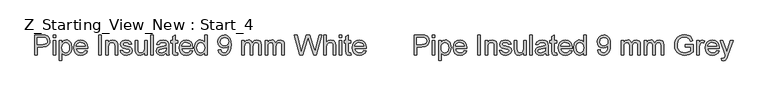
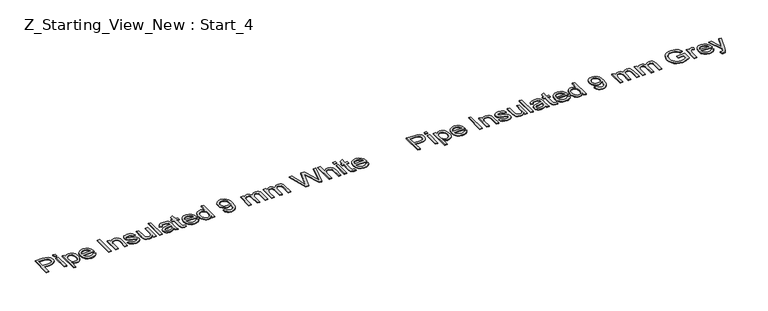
"""IFC4 building model written with IfcOpenShell, lengths in millimetres: pipe fitting geometry, Z_Starting_View_New : Start_4."""

from ifc_helpers import new_model, si_unit, origin, origin_with_axes, place, context, project, spatial, polyline, outline, extrude, source, transform, mapped, element, save


def z_starting_view_new_start_4_ba743cbc(model_context):
    return source(origin(), model_context, "Body", "SweptSolid", [
        extrude(outline(polyline([(27043.9601663, 7445.7857303), (27043.9601663, 7596.4701955), (27099.8046532, 7596.4701955), (27122.3190313, 7595.0354557), (27140.6211606, 7587.9905155), (27152.4853549, 7573.4223885), (27156.9735152, 7552.8761791), (27153.9430873, 7535.1166757), (27144.8518035, 7520.3186225), (27127.8510568, 7510.3306263), (27101.0922402, 7507.0012943), (27062.7957245, 7507.0012943), (27062.7957245, 7445.7857303), (27043.9601663, 7445.7857303)]), holes=[polyline([(27062.7957245, 7525.8368524), (27102.1958862, 7525.8368524), (27118.8977287, 7527.5658978), (27129.9341886, 7532.7530339), (27136.087015, 7541.0763641), (27138.1379571, 7552.2139915), (27133.3003089, 7567.8121881), (27120.5899859, 7576.3470504), (27101.7544278, 7577.6346373), (27062.7957245, 7577.6346373), (27062.7957245, 7525.8368524)])]), origin_with_axes(), (0.0, 0.0, 1.0), 5.0),
        extrude(outline(polyline([(27180.5179629, 7445.7857303), (27180.5179629, 7556.4446344), (27199.3535211, 7556.4446344), (27199.3535211, 7445.7857303), (27180.5179629, 7445.7857303)])), origin_with_axes(), (0.0, 0.0, 1.0), 5.0),
        extrude(outline(polyline([(27180.5179629, 7577.6346373), (27180.5179629, 7596.4701955), (27199.3535211, 7596.4701955), (27199.3535211, 7577.6346373), (27180.5179629, 7577.6346373)])), origin_with_axes(), (0.0, 0.0, 1.0), 5.0),
        extrude(outline(polyline([(27227.6068583, 7403.4057244), (27227.6068583, 7556.4446344), (27246.4424165, 7556.4446344), (27246.4424165, 7537.9769583), (27259.4654391, 7553.593549), (27277.0501985, 7558.7990792), (27289.7881126, 7556.9780633), (27300.92574, 7551.5150157), (27309.9940311, 7542.7410301), (27316.5239366, 7530.9872003), (27321.7846491, 7501.9613109), (27320.2993255, 7485.8526781), (27315.8433549, 7471.4454994), (27308.5592914, 7459.4709405), (27298.5896893, 7450.6601667), (27286.9784138, 7445.2385058), (27274.7693301, 7443.4312855), (27258.3801872, 7448.2689337), (27246.4424165, 7460.5010101), (27246.4424165, 7403.4057244), (27227.6068583, 7403.4057244)]), holes=[polyline([(27246.4424165, 7500.2322656), (27248.479563, 7483.346482), (27254.5910027, 7471.5374699), (27263.6087101, 7464.5845002), (27274.3646599, 7462.2668436), (27285.2953537, 7464.6672737), (27294.5429873, 7471.8685637), (27300.847565, 7484.1098371), (27302.9490909, 7501.6302171), (27300.8981488, 7518.4240302), (27294.7453224, 7530.3985892), (27285.7414106, 7537.5722881), (27275.1372121, 7539.963521), (27264.4916269, 7537.4205367), (27255.1428257, 7529.7915839), (27248.6175188, 7517.3157857), (27246.4424165, 7500.2322656)])]), origin_with_axes(), (0.0, 0.0, 1.0), 5.0),
        extrude(outline(polyline([(27420.4506002, 7478.747957), (27438.9182764, 7476.3935123), (27432.2642108, 7462.4783758), (27421.6462167, 7452.0765124), (27407.3034174, 7445.5925922), (27389.4749362, 7443.4312855), (27367.3744253, 7447.1606892), (27350.3690801, 7458.3489004), (27339.5257583, 7476.2693521), (27335.9113177, 7500.1954774), (27339.5625465, 7524.9263445), (27350.5162329, 7543.4216118), (27367.2916519, 7554.9547123), (27388.4080784, 7558.7990792), (27408.8669159, 7554.9639094), (27425.214672, 7543.4584), (27435.9338337, 7524.9999209), (27439.5068875, 7500.305842), (27439.3965229, 7495.2290704), (27354.7468759, 7495.2290704), (27358.00723, 7481.129993), (27365.5810006, 7470.7649177), (27376.5116944, 7464.3913622), (27389.8428182, 7462.2668436), (27408.3104944, 7466.203181), (27420.4506002, 7478.747957)]), holes=[polyline([(27354.7468759, 7514.0646286), (27420.6713294, 7514.0646286), (27418.1237466, 7524.0158365), (27413.1297485, 7531.1343531), (27402.1484709, 7537.7562291), (27388.334502, 7539.963521), (27375.6379747, 7538.202286), (27365.1395422, 7532.9185808), (27357.8416831, 7524.6826227), (27354.7468759, 7514.0646286)])]), origin_with_axes(), (0.0, 0.0, 1.0), 5.0),
        extrude(outline(polyline([(27521.9124545, 7445.7857303), (27521.9124545, 7596.4701955), (27540.7480126, 7596.4701955), (27540.7480126, 7445.7857303), (27521.9124545, 7445.7857303)])), origin_with_axes(), (0.0, 0.0, 1.0), 5.0),
        extrude(outline(polyline([(27576.0646842, 7445.7857303), (27576.0646842, 7556.4446344), (27594.9002423, 7556.4446344), (27594.9002423, 7540.9935906), (27609.3028224, 7554.347707), (27628.9661151, 7558.7990792), (27646.7532095, 7555.2122297), (27658.8933154, 7545.7944507), (27664.540304, 7531.9436935), (27665.5335854, 7513.7335348), (27665.5335854, 7445.7857303), (27646.6980272, 7445.7857303), (27646.6980272, 7511.195149), (27644.5275235, 7527.8602034), (27636.8571839, 7536.6709772), (27623.9261317, 7539.963521), (27612.8942704, 7538.114914), (27603.4902869, 7532.5690929), (27597.0477535, 7521.8545298), (27594.9002423, 7504.4996967), (27594.9002423, 7445.7857303), (27576.0646842, 7445.7857303)])), origin_with_axes(), (0.0, 0.0, 1.0), 5.0),
        extrude(outline(polyline([(27684.3691435, 7478.747957), (27703.2047017, 7481.1024018), (27706.1753488, 7473.0457861), (27711.923505, 7467.122886), (27731.8994973, 7462.2668436), (27751.1029375, 7466.7182158), (27757.3569314, 7477.1660645), (27755.7842358, 7481.9669245), (27751.0661493, 7485.6273503), (27731.6787681, 7490.9984275), (27703.3150663, 7500.2138715), (27690.9358371, 7510.9744198), (27686.7235883, 7526.1679462), (27690.1081027, 7540.2026443), (27699.3419407, 7550.9264045), (27711.3164997, 7556.4998167), (27727.5217016, 7558.7990792), (27750.4407499, 7555.1018651), (27765.0088769, 7545.0954749), (27771.4836, 7528.1912972), (27752.6480418, 7525.8368524), (27745.5663134, 7536.2295188), (27728.9932295, 7539.963521), (27710.9670118, 7536.3950657), (27705.5591465, 7528.0809326), (27707.8032266, 7522.5994909), (27714.8297727, 7518.4424243), (27731.0533687, 7514.4325106), (27758.6997007, 7505.5665545), (27771.5387823, 7495.523376), (27776.1924895, 7479.1526272), (27770.7294419, 7461.1264095), (27754.9656984, 7448.0482045), (27731.6419799, 7443.4312855), (27712.6500719, 7445.6569716), (27698.7901177, 7452.3340298), (27689.5378856, 7463.3888837), (27684.3691435, 7478.747957)])), origin_with_axes(), (0.0, 0.0, 1.0), 5.0),
        extrude(outline(polyline([(27868.0158355, 7445.7857303), (27868.0158355, 7464.8052294), (27853.2637675, 7448.7747715), (27834.0235392, 7443.4312855), (27816.3100211, 7447.1836818), (27804.0963389, 7456.6014609), (27798.4861384, 7470.4706121), (27797.3824925, 7487.9817951), (27797.3824925, 7556.4446344), (27816.2180506, 7556.4446344), (27816.2180506, 7496.8477512), (27817.3584848, 7477.644311), (27824.8080952, 7466.3687279), (27838.8427933, 7462.2668436), (27854.5697486, 7466.4606984), (27864.962415, 7477.8834343), (27868.0158355, 7498.8711022), (27868.0158355, 7556.4446344), (27886.8513937, 7556.4446344), (27886.8513937, 7445.7857303), (27868.0158355, 7445.7857303)])), origin_with_axes(), (0.0, 0.0, 1.0), 5.0),
        extrude(outline(polyline([(27912.7502861, 7445.7857303), (27912.7502861, 7596.4701955), (27931.5858443, 7596.4701955), (27931.5858443, 7445.7857303), (27912.7502861, 7445.7857303)])), origin_with_axes(), (0.0, 0.0, 1.0), 5.0),
        extrude(outline(polyline([(28030.4725246, 7459.9123989), (28012.2071835, 7447.1468936), (27992.0288561, 7443.4312855), (27976.2881052, 7445.6661686), (27964.6768298, 7452.370818), (27957.5169264, 7462.5519522), (27955.130292, 7475.2162899), (27958.7355355, 7490.1155107), (27968.2084969, 7500.9312413), (27981.3970664, 7507.1116589), (27997.6942388, 7509.9443502), (28030.36216, 7516.4190733), (28030.4725246, 7520.6129281), (28029.1757406, 7529.0190317), (28025.2853885, 7534.5188675), (28016.5849793, 7538.6023576), (28004.4632675, 7539.963521), (27985.4069802, 7536.3398834), (27976.3202949, 7523.4824076), (27957.4847368, 7525.8368524), (27965.6333229, 7544.2309522), (27982.0408599, 7555.0098946), (28006.8912887, 7558.7990792), (28029.7183665, 7555.451353), (28042.6126304, 7547.0452494), (28048.3883778, 7534.2613501), (28049.3080827, 7517.7802367), (28049.3080827, 7494.3461536), (28050.2645759, 7461.6230502), (28054.0169723, 7445.7857303), (28035.1814141, 7445.7857303), (28030.4725246, 7459.9123989)]), holes=[polyline([(28030.4725246, 7497.5835152), (28000.0854718, 7491.8077679), (27983.8802699, 7488.7543473), (27976.5410241, 7483.7879404), (27973.9658501, 7476.5406651), (27979.5760506, 7466.3503338), (27996.0387698, 7462.2668436), (28015.0950572, 7466.7733981), (28027.3823158, 7477.6810992), (28030.36216, 7492.2492263), (28030.4725246, 7497.5835152)])]), origin_with_axes(), (0.0, 0.0, 1.0), 5.0),
        extrude(outline(polyline([(28115.2325363, 7461.4942915), (28117.5869811, 7445.2339073), (28103.4971006, 7443.4312855), (28087.714963, 7446.5582825), (28079.8422883, 7454.7620509), (28077.56142, 7476.1359949), (28077.56142, 7537.6090763), (28063.4347514, 7537.6090763), (28063.4347514, 7556.4446344), (28077.56142, 7556.4446344), (28077.56142, 7583.3368083), (28096.3969781, 7594.4100563), (28096.3969781, 7556.4446344), (28115.2325363, 7556.4446344), (28115.2325363, 7537.6090763), (28096.3969781, 7537.6090763), (28096.3969781, 7476.6878179), (28097.3902595, 7466.9757332), (28100.609227, 7463.5360365), (28107.0287678, 7462.2668436), (28115.2325363, 7461.4942915)])), origin_with_axes(), (0.0, 0.0, 1.0), 5.0),
        extrude(outline(polyline([(28211.5440426, 7478.747957), (28230.0117188, 7476.3935123), (28223.3576532, 7462.4783758), (28212.7396591, 7452.0765124), (28198.3968598, 7445.5925922), (28180.5683786, 7443.4312855), (28158.4678678, 7447.1606892), (28141.4625225, 7458.3489004), (28130.6192007, 7476.2693521), (28127.0047601, 7500.1954774), (28130.6559889, 7524.9263445), (28141.6096753, 7543.4216118), (28158.3850943, 7554.9547123), (28179.5015208, 7558.7990792), (28199.9603583, 7554.9639094), (28216.3081145, 7543.4584), (28227.0272761, 7524.9999209), (28230.60033, 7500.305842), (28230.4899654, 7495.2290704), (28145.8403183, 7495.2290704), (28149.1006725, 7481.129993), (28156.674443, 7470.7649177), (28167.6051368, 7464.3913622), (28180.9362606, 7462.2668436), (28199.4039368, 7466.203181), (28211.5440426, 7478.747957)]), holes=[polyline([(28145.8403183, 7514.0646286), (28211.7647718, 7514.0646286), (28209.217189, 7524.0158365), (28204.2231909, 7531.1343531), (28193.2419134, 7537.7562291), (28179.4279444, 7539.963521), (28166.7314171, 7538.202286), (28156.2329846, 7532.9185808), (28148.9351256, 7524.6826227), (28145.8403183, 7514.0646286)])]), origin_with_axes(), (0.0, 0.0, 1.0), 5.0),
        extrude(outline(polyline([(28317.7147864, 7445.7857303), (28317.7147864, 7463.5544306), (28305.2527838, 7448.4620718), (28288.0267094, 7443.4312855), (28275.8498154, 7445.2523014), (28264.7029909, 7450.715349), (28255.2668177, 7459.4387508), (28248.2218775, 7471.0408292), (28243.8348847, 7485.0525347), (28242.3725538, 7501.0048177), (28247.762025, 7530.9872003), (28254.4942656, 7542.8789858), (28263.9120446, 7551.6253803), (28275.3025909, 7557.0056545), (28287.953133, 7558.7990792), (28305.3171632, 7553.6671254), (28317.7147864, 7540.331403), (28317.7147864, 7596.4701955), (28336.5503446, 7596.4701955), (28336.5503446, 7445.7857303), (28317.7147864, 7445.7857303)]), holes=[polyline([(28261.208112, 7501.0783941), (28263.3326305, 7484.0408592), (28269.7061861, 7471.923746), (28278.9676153, 7464.6810692), (28289.7557548, 7462.2668436), (28300.5392958, 7464.5707046), (28309.5662002, 7471.4822876), (28315.6776399, 7483.1303513), (28317.7147864, 7499.6436544), (28315.6408517, 7517.6974633), (28309.4190474, 7530.2146482), (28300.1622167, 7537.5263028), (28288.9832026, 7539.963521), (28278.0846985, 7537.6228718), (28269.1543631, 7530.6009243), (28263.1946747, 7518.5389933), (28261.208112, 7501.0783941)])]), origin_with_axes(), (0.0, 0.0, 1.0), 5.0),
        extrude(outline(polyline([(28421.3103563, 7483.4568466), (28440.1459144, 7485.8112913), (28443.3648819, 7475.1197209), (28448.6072003, 7467.8402559), (28455.744111, 7463.6601967), (28464.6468553, 7462.2668436), (28479.895564, 7465.8536931), (28490.2330481, 7475.4370191), (28496.3950715, 7491.8077679), (28499.1173983, 7513.6599584), (28499.0070337, 7517.3387783), (28483.9422659, 7503.0649569), (28463.2856919, 7497.5835152), (28446.1102013, 7500.9312413), (28431.8133872, 7510.9744198), (28422.1702804, 7526.489843), (28418.9559115, 7546.2543031), (28422.3266303, 7566.6717539), (28432.4387866, 7582.6746207), (28447.6277145, 7593.0213018), (28466.2287479, 7596.4701955), (28480.2772416, 7594.5020268), (28493.0657394, 7588.5975208), (28503.7619084, 7579.050983), (28511.5334156, 7566.1567191), (28516.2652978, 7548.3328364), (28517.8425918, 7523.9974424), (28516.2698963, 7498.195119), (28511.5518097, 7478.2513163), (28503.7297188, 7463.2647236), (28492.8450102, 7452.3340298), (28479.3667336, 7445.6569716), (28463.7639385, 7443.4312855), (28447.6599042, 7446.0570432), (28434.8116255, 7453.9343165), (28425.8261078, 7466.5664645), (28421.3103563, 7483.4568466)]), holes=[polyline([(28499.0070337, 7546.6957615), (28496.9744856, 7559.4612668), (28490.8768416, 7569.283716), (28481.4130772, 7575.546907), (28469.2821684, 7577.6346373), (28456.7006042, 7575.3859586), (28446.6206375, 7568.6399226), (28439.9987616, 7558.3162341), (28437.7914697, 7545.3345982), (28439.8792, 7533.6957315), (28446.1423909, 7524.4572949), (28455.9740373, 7518.4286287), (28468.7671336, 7516.4190733), (28480.8014734, 7518.4286287), (28490.4905655, 7524.4572949), (28496.8779166, 7534.0360224), (28499.0070337, 7546.6957615)])]), origin_with_axes(), (0.0, 0.0, 1.0), 5.0),
        extrude(outline(polyline([(28597.893714, 7445.7857303), (28597.893714, 7556.4446344), (28616.7292721, 7556.4446344), (28616.7292721, 7538.2344757), (28629.6787183, 7553.1520906), (28648.1096063, 7558.7990792), (28658.5850461, 7557.3597409), (28666.9819526, 7553.041726), (28677.3562249, 7536.9101005), (28692.0531106, 7553.3268345), (28710.6127573, 7558.7990792), (28724.7716156, 7556.5228093), (28735.2424569, 7549.6939998), (28741.7125814, 7538.1287096), (28743.8692896, 7521.6429977), (28743.8692896, 7445.7857303), (28725.0337315, 7445.7857303), (28725.0337315, 7513.5495938), (28723.286292, 7529.2765491), (28716.9587217, 7537.0204651), (28706.1981733, 7539.963521), (28695.9940465, 7538.0781258), (28687.6753149, 7532.4219401), (28682.1432894, 7522.6086879), (28680.2992809, 7508.252093), (28680.2992809, 7445.7857303), (28661.4637227, 7445.7857303), (28661.4637227, 7515.6465212), (28657.1043211, 7533.8934681), (28651.3515664, 7538.4460078), (28642.8121056, 7539.963521), (28628.8693779, 7535.9168191), (28619.5987517, 7524.0710188), (28616.7292721, 7501.5934289), (28616.7292721, 7445.7857303), (28597.893714, 7445.7857303)])), origin_with_axes(), (0.0, 0.0, 1.0), 5.0),
        extrude(outline(polyline([(28772.1226269, 7445.7857303), (28772.1226269, 7556.4446344), (28790.958185, 7556.4446344), (28790.958185, 7538.2344757), (28803.9076313, 7553.1520906), (28822.3385192, 7558.7990792), (28832.813959, 7557.3597409), (28841.2108656, 7553.041726), (28851.5851378, 7536.9101005), (28866.2820235, 7553.3268345), (28884.8416702, 7558.7990792), (28899.0005285, 7556.5228093), (28909.4713698, 7549.6939998), (28915.9414944, 7538.1287096), (28918.0982026, 7521.6429977), (28918.0982026, 7445.7857303), (28899.2626444, 7445.7857303), (28899.2626444, 7513.5495938), (28897.5152049, 7529.2765491), (28891.1876346, 7537.0204651), (28880.4270863, 7539.963521), (28870.2229594, 7538.0781258), (28861.9042278, 7532.4219401), (28856.3722023, 7522.6086879), (28854.5281938, 7508.252093), (28854.5281938, 7445.7857303), (28835.6926356, 7445.7857303), (28835.6926356, 7515.6465212), (28831.333234, 7533.8934681), (28825.5804793, 7538.4460078), (28817.0410185, 7539.963521), (28803.0982909, 7535.9168191), (28793.8276646, 7524.0710188), (28790.958185, 7501.5934289), (28790.958185, 7445.7857303), (28772.1226269, 7445.7857303)])), origin_with_axes(), (0.0, 0.0, 1.0), 5.0),
        extrude(outline(polyline([(29078.2004469, 7504.6468495), (29078.2004469, 7523.4824076), (29139.4160109, 7523.4824076), (29139.4160109, 7467.1596742), (29109.194505, 7449.3909738), (29077.2439537, 7443.4312855), (29056.1137316, 7445.7995258), (29037.0160575, 7452.9042469), (29021.1511465, 7464.4971282), (29009.7192135, 7480.3298496), (29002.8076305, 7499.3217576), (29000.5037695, 7520.3921989), (29002.7984334, 7541.6143915), (29009.6824253, 7561.3558591), (29020.8706364, 7577.9151474), (29036.0779584, 7589.5908022), (29054.6008169, 7596.5161807), (29075.7356375, 7598.8246403), (29105.2029853, 7593.4719572), (29116.9522165, 7587.0708105), (29125.8595593, 7578.5727364), (29137.2455071, 7553.6487313), (29119.8814769, 7548.7559007), (29111.2914323, 7566.1751132), (29096.6129407, 7576.2182917), (29075.4413319, 7579.9890821), (29051.3266671, 7575.9239861), (29034.9191301, 7565.2554082), (29025.2254396, 7550.7424635), (29019.3393276, 7521.1647511), (29021.1097597, 7503.1523289), (29026.421056, 7488.331283), (29035.1122682, 7476.8073795), (29047.0224478, 7468.6863845), (29060.9605769, 7463.8717289), (29075.7356375, 7462.2668436), (29101.5057713, 7467.1044919), (29120.5804527, 7477.4235819), (29120.5804527, 7504.6468495), (29078.2004469, 7504.6468495)])), origin_with_axes(), (0.0, 0.0, 1.0), 5.0),
        extrude(outline(polyline([(29167.6693481, 7445.7857303), (29167.6693481, 7556.4446344), (29184.1504615, 7556.4446344), (29184.1504615, 7540.0738856), (29195.8491089, 7555.1570474), (29207.6213328, 7558.7990792), (29226.5304673, 7552.9865437), (29220.2396852, 7536.1007601), (29206.9959334, 7539.963521), (29196.3457496, 7536.2479129), (29189.5583268, 7525.947217), (29186.5049062, 7503.9478737), (29186.5049062, 7445.7857303), (29167.6693481, 7445.7857303)])), origin_with_axes(), (0.0, 0.0, 1.0), 5.0),
        extrude(outline(polyline([(29315.7786393, 7478.747957), (29334.2463155, 7476.3935123), (29327.5922499, 7462.4783758), (29316.9742558, 7452.0765124), (29302.6314565, 7445.5925922), (29284.8029753, 7443.4312855), (29262.7024645, 7447.1606892), (29245.6971193, 7458.3489004), (29234.8537975, 7476.2693521), (29231.2393569, 7500.1954774), (29234.8905857, 7524.9263445), (29245.8442721, 7543.4216118), (29262.619691, 7554.9547123), (29283.7361176, 7558.7990792), (29304.194955, 7554.9639094), (29320.5427112, 7543.4584), (29331.2618728, 7524.9999209), (29334.8349267, 7500.305842), (29334.7245621, 7495.2290704), (29250.074915, 7495.2290704), (29253.3352692, 7481.129993), (29260.9090398, 7470.7649177), (29271.8397335, 7464.3913622), (29285.1708573, 7462.2668436), (29303.6385335, 7466.203181), (29315.7786393, 7478.747957)]), holes=[polyline([(29250.074915, 7514.0646286), (29315.9993685, 7514.0646286), (29313.4517857, 7524.0158365), (29308.4577876, 7531.1343531), (29297.4765101, 7537.7562291), (29283.6625412, 7539.963521), (29270.9660138, 7538.202286), (29260.4675814, 7532.9185808), (29253.1697223, 7524.6826227), (29250.074915, 7514.0646286)])]), origin_with_axes(), (0.0, 0.0, 1.0), 5.0),
        extrude(outline(polyline([(29353.6704848, 7403.4057244), (29351.3160401, 7421.5423068), (29360.880972, 7419.8868378), (29369.8205044, 7421.9653711), (29375.3019462, 7427.7595125), (29380.4522941, 7441.6286637), (29381.9238221, 7446.1904005), (29341.898261, 7556.4446344), (29361.7638887, 7556.4446344), (29382.9906799, 7495.0083412), (29390.385108, 7470.4338239), (29397.7795361, 7492.1388617), (29419.5949384, 7556.4446344), (29439.3134133, 7556.4446344), (29400.7961684, 7443.1369799), (29390.7897782, 7418.5624626), (29379.8636829, 7405.2819226), (29365.1851913, 7401.0512797), (29353.6704848, 7403.4057244)])), origin_with_axes(), (0.0, 0.0, 1.0), 5.0),
        extrude(outline(polyline([(24195.6940486, 7445.7857303), (24195.6940486, 7596.4701955), (24251.5385354, 7596.4701955), (24274.0529135, 7595.0354557), (24292.3550428, 7587.9905155), (24304.2192371, 7573.4223885), (24308.7073975, 7552.8761791), (24305.6769695, 7535.1166757), (24296.5856857, 7520.3186225), (24279.584939, 7510.3306263), (24252.8261224, 7507.0012943), (24214.5296067, 7507.0012943), (24214.5296067, 7445.7857303), (24195.6940486, 7445.7857303)]), holes=[polyline([(24214.5296067, 7525.8368524), (24253.9297684, 7525.8368524), (24270.631611, 7527.5658978), (24281.6680708, 7532.7530339), (24287.8208972, 7541.0763641), (24289.8718393, 7552.2139915), (24285.0341911, 7567.8121881), (24272.3238682, 7576.3470504), (24253.48831, 7577.6346373), (24214.5296067, 7577.6346373), (24214.5296067, 7525.8368524)])]), origin_with_axes(), (0.0, 0.0, 1.0), 5.0),
        extrude(outline(polyline([(24332.2518452, 7445.7857303), (24332.2518452, 7556.4446344), (24351.0874033, 7556.4446344), (24351.0874033, 7445.7857303), (24332.2518452, 7445.7857303)])), origin_with_axes(), (0.0, 0.0, 1.0), 5.0),
        extrude(outline(polyline([(24332.2518452, 7577.6346373), (24332.2518452, 7596.4701955), (24351.0874033, 7596.4701955), (24351.0874033, 7577.6346373), (24332.2518452, 7577.6346373)])), origin_with_axes(), (0.0, 0.0, 1.0), 5.0),
        extrude(outline(polyline([(24379.3407406, 7403.4057244), (24379.3407406, 7556.4446344), (24398.1762987, 7556.4446344), (24398.1762987, 7537.9769583), (24411.1993213, 7553.593549), (24428.7840807, 7558.7990792), (24441.5219948, 7556.9780633), (24452.6596222, 7551.5150157), (24461.7279134, 7542.7410301), (24468.2578188, 7530.9872003), (24473.5185313, 7501.9613109), (24472.0332078, 7485.8526781), (24467.5772371, 7471.4454994), (24460.2931736, 7459.4709405), (24450.3235715, 7450.6601667), (24438.7122961, 7445.2385058), (24426.5032123, 7443.4312855), (24410.1140695, 7448.2689337), (24398.1762987, 7460.5010101), (24398.1762987, 7403.4057244), (24379.3407406, 7403.4057244)]), holes=[polyline([(24398.1762987, 7500.2322656), (24400.2134453, 7483.346482), (24406.3248849, 7471.5374699), (24415.3425923, 7464.5845002), (24426.0985421, 7462.2668436), (24437.0292359, 7464.6672737), (24446.2768696, 7471.8685637), (24452.5814473, 7484.1098371), (24454.6829732, 7501.6302171), (24452.632031, 7518.4240302), (24446.4792047, 7530.3985892), (24437.4752928, 7537.5722881), (24426.8710943, 7539.963521), (24416.2255091, 7537.4205367), (24406.8767079, 7529.7915839), (24400.351401, 7517.3157857), (24398.1762987, 7500.2322656)])]), origin_with_axes(), (0.0, 0.0, 1.0), 5.0),
        extrude(outline(polyline([(24572.1844824, 7478.747957), (24590.6521586, 7476.3935123), (24583.998093, 7462.4783758), (24573.3800989, 7452.0765124), (24559.0372996, 7445.5925922), (24541.2088184, 7443.4312855), (24519.1083076, 7447.1606892), (24502.1029623, 7458.3489004), (24491.2596405, 7476.2693521), (24487.6451999, 7500.1954774), (24491.2964287, 7524.9263445), (24502.2501151, 7543.4216118), (24519.0255341, 7554.9547123), (24540.1419606, 7558.7990792), (24560.6007981, 7554.9639094), (24576.9485543, 7543.4584), (24587.6677159, 7524.9999209), (24591.2407698, 7500.305842), (24591.1304052, 7495.2290704), (24506.4807581, 7495.2290704), (24509.7411123, 7481.129993), (24517.3148828, 7470.7649177), (24528.2455766, 7464.3913622), (24541.5767004, 7462.2668436), (24560.0443766, 7466.203181), (24572.1844824, 7478.747957)]), holes=[polyline([(24506.4807581, 7514.0646286), (24572.4052116, 7514.0646286), (24569.8576288, 7524.0158365), (24564.8636307, 7531.1343531), (24553.8823532, 7537.7562291), (24540.0683842, 7539.963521), (24527.3718569, 7538.202286), (24516.8734245, 7532.9185808), (24509.5755654, 7524.6826227), (24506.4807581, 7514.0646286)])]), origin_with_axes(), (0.0, 0.0, 1.0), 5.0),
        extrude(outline(polyline([(24673.6463367, 7445.7857303), (24673.6463367, 7596.4701955), (24692.4818948, 7596.4701955), (24692.4818948, 7445.7857303), (24673.6463367, 7445.7857303)])), origin_with_axes(), (0.0, 0.0, 1.0), 5.0),
        extrude(outline(polyline([(24727.7985664, 7445.7857303), (24727.7985664, 7556.4446344), (24746.6341245, 7556.4446344), (24746.6341245, 7540.9935906), (24761.0367046, 7554.347707), (24780.6999973, 7558.7990792), (24798.4870918, 7555.2122297), (24810.6271976, 7545.7944507), (24816.2741862, 7531.9436935), (24817.2674676, 7513.7335348), (24817.2674676, 7445.7857303), (24798.4319095, 7445.7857303), (24798.4319095, 7511.195149), (24796.2614057, 7527.8602034), (24788.5910661, 7536.6709772), (24775.660014, 7539.963521), (24764.6281526, 7538.114914), (24755.2241691, 7532.5690929), (24748.7816357, 7521.8545298), (24746.6341245, 7504.4996967), (24746.6341245, 7445.7857303), (24727.7985664, 7445.7857303)])), origin_with_axes(), (0.0, 0.0, 1.0), 5.0),
        extrude(outline(polyline([(24836.1030258, 7478.747957), (24854.9385839, 7481.1024018), (24857.909231, 7473.0457861), (24863.6573872, 7467.122886), (24883.6333795, 7462.2668436), (24902.8368197, 7466.7182158), (24909.0908136, 7477.1660645), (24907.5181181, 7481.9669245), (24902.8000315, 7485.6273503), (24883.4126503, 7490.9984275), (24855.0489485, 7500.2138715), (24842.6697194, 7510.9744198), (24838.4574705, 7526.1679462), (24841.8419849, 7540.2026443), (24851.075823, 7550.9264045), (24863.0503819, 7556.4998167), (24879.2555838, 7558.7990792), (24902.1746321, 7555.1018651), (24916.7427591, 7545.0954749), (24923.2174822, 7528.1912972), (24904.3819241, 7525.8368524), (24897.3001957, 7536.2295188), (24880.7271118, 7539.963521), (24862.700894, 7536.3950657), (24857.2930287, 7528.0809326), (24859.5371089, 7522.5994909), (24866.563655, 7518.4424243), (24882.787251, 7514.4325106), (24910.4335829, 7505.5665545), (24923.2726645, 7495.523376), (24927.9263718, 7479.1526272), (24922.4633241, 7461.1264095), (24906.6995806, 7448.0482045), (24883.3758621, 7443.4312855), (24864.3839541, 7445.6569716), (24850.524, 7452.3340298), (24841.2717678, 7463.3888837), (24836.1030258, 7478.747957)])), origin_with_axes(), (0.0, 0.0, 1.0), 5.0),
        extrude(outline(polyline([(25019.7497178, 7445.7857303), (25019.7497178, 7464.8052294), (25004.9976498, 7448.7747715), (24985.7574214, 7443.4312855), (24968.0439033, 7447.1836818), (24955.8302211, 7456.6014609), (24950.2200207, 7470.4706121), (24949.1163747, 7487.9817951), (24949.1163747, 7556.4446344), (24967.9519328, 7556.4446344), (24967.9519328, 7496.8477512), (24969.092367, 7477.644311), (24976.5419774, 7466.3687279), (24990.5766755, 7462.2668436), (25006.3036308, 7466.4606984), (25016.6962972, 7477.8834343), (25019.7497178, 7498.8711022), (25019.7497178, 7556.4446344), (25038.5852759, 7556.4446344), (25038.5852759, 7445.7857303), (25019.7497178, 7445.7857303)])), origin_with_axes(), (0.0, 0.0, 1.0), 5.0),
        extrude(outline(polyline([(25064.4841684, 7445.7857303), (25064.4841684, 7596.4701955), (25083.3197265, 7596.4701955), (25083.3197265, 7445.7857303), (25064.4841684, 7445.7857303)])), origin_with_axes(), (0.0, 0.0, 1.0), 5.0),
        extrude(outline(polyline([(25182.2064068, 7459.9123989), (25163.9410658, 7447.1468936), (25143.7627383, 7443.4312855), (25128.0219875, 7445.6661686), (25116.410712, 7452.370818), (25109.2508087, 7462.5519522), (25106.8641742, 7475.2162899), (25110.4694178, 7490.1155107), (25119.9423791, 7500.9312413), (25133.1309487, 7507.1116589), (25149.4281211, 7509.9443502), (25182.0960422, 7516.4190733), (25182.2064068, 7520.6129281), (25180.9096228, 7529.0190317), (25177.0192707, 7534.5188675), (25168.3188615, 7538.6023576), (25156.1971498, 7539.963521), (25137.1408624, 7536.3398834), (25128.0541771, 7523.4824076), (25109.218619, 7525.8368524), (25117.3672052, 7544.2309522), (25133.7747422, 7555.0098946), (25158.6251709, 7558.7990792), (25181.4522487, 7555.451353), (25194.3465127, 7547.0452494), (25200.12226, 7534.2613501), (25201.041965, 7517.7802367), (25201.041965, 7494.3461536), (25201.9984582, 7461.6230502), (25205.7508545, 7445.7857303), (25186.9152964, 7445.7857303), (25182.2064068, 7459.9123989)]), holes=[polyline([(25182.2064068, 7497.5835152), (25151.819354, 7491.8077679), (25135.6141521, 7488.7543473), (25128.2749063, 7483.7879404), (25125.6997324, 7476.5406651), (25131.3099328, 7466.3503338), (25147.7726521, 7462.2668436), (25166.8289394, 7466.7733981), (25179.1161981, 7477.6810992), (25182.0960422, 7492.2492263), (25182.2064068, 7497.5835152)])]), origin_with_axes(), (0.0, 0.0, 1.0), 5.0),
        extrude(outline(polyline([(25266.9664185, 7461.4942915), (25269.3208633, 7445.2339073), (25255.2309829, 7443.4312855), (25239.4488453, 7446.5582825), (25231.5761706, 7454.7620509), (25229.2953022, 7476.1359949), (25229.2953022, 7537.6090763), (25215.1686336, 7537.6090763), (25215.1686336, 7556.4446344), (25229.2953022, 7556.4446344), (25229.2953022, 7583.3368083), (25248.1308604, 7594.4100563), (25248.1308604, 7556.4446344), (25266.9664185, 7556.4446344), (25266.9664185, 7537.6090763), (25248.1308604, 7537.6090763), (25248.1308604, 7476.6878179), (25249.1241418, 7466.9757332), (25252.3431092, 7463.5360365), (25258.76265, 7462.2668436), (25266.9664185, 7461.4942915)])), origin_with_axes(), (0.0, 0.0, 1.0), 5.0),
        extrude(outline(polyline([(25363.2779249, 7478.747957), (25381.745601, 7476.3935123), (25375.0915354, 7462.4783758), (25364.4735413, 7452.0765124), (25350.1307421, 7445.5925922), (25332.3022609, 7443.4312855), (25310.20175, 7447.1606892), (25293.1964048, 7458.3489004), (25282.353083, 7476.2693521), (25278.7386424, 7500.1954774), (25282.3898712, 7524.9263445), (25293.3435576, 7543.4216118), (25310.1189766, 7554.9547123), (25331.2354031, 7558.7990792), (25351.6942405, 7554.9639094), (25368.0419967, 7543.4584), (25378.7611583, 7524.9999209), (25382.3342122, 7500.305842), (25382.2238476, 7495.2290704), (25297.5742005, 7495.2290704), (25300.8345547, 7481.129993), (25308.4083253, 7470.7649177), (25319.3390191, 7464.3913622), (25332.6701429, 7462.2668436), (25351.137819, 7466.203181), (25363.2779249, 7478.747957)]), holes=[polyline([(25297.5742005, 7514.0646286), (25363.4986541, 7514.0646286), (25360.9510712, 7524.0158365), (25355.9570731, 7531.1343531), (25344.9757956, 7537.7562291), (25331.1618267, 7539.963521), (25318.4652993, 7538.202286), (25307.9668669, 7532.9185808), (25300.6690078, 7524.6826227), (25297.5742005, 7514.0646286)])]), origin_with_axes(), (0.0, 0.0, 1.0), 5.0),
        extrude(outline(polyline([(25469.4486687, 7445.7857303), (25469.4486687, 7463.5544306), (25456.9866661, 7448.4620718), (25439.7605917, 7443.4312855), (25427.5836976, 7445.2523014), (25416.4368732, 7450.715349), (25407.0007, 7459.4387508), (25399.9557598, 7471.0408292), (25395.568767, 7485.0525347), (25394.106436, 7501.0048177), (25399.4959073, 7530.9872003), (25406.2281478, 7542.8789858), (25415.6459269, 7551.6253803), (25427.0364731, 7557.0056545), (25439.6870153, 7558.7990792), (25457.0510454, 7553.6671254), (25469.4486687, 7540.331403), (25469.4486687, 7596.4701955), (25488.2842268, 7596.4701955), (25488.2842268, 7445.7857303), (25469.4486687, 7445.7857303)]), holes=[polyline([(25412.9419942, 7501.0783941), (25415.0665127, 7484.0408592), (25421.4400683, 7471.923746), (25430.7014975, 7464.6810692), (25441.489637, 7462.2668436), (25452.273178, 7464.5707046), (25461.3000825, 7471.4822876), (25467.4115221, 7483.1303513), (25469.4486687, 7499.6436544), (25467.3747339, 7517.6974633), (25461.1529297, 7530.2146482), (25451.896099, 7537.5263028), (25440.7170848, 7539.963521), (25429.8185807, 7537.6228718), (25420.8882453, 7530.6009243), (25414.928557, 7518.5389933), (25412.9419942, 7501.0783941)])]), origin_with_axes(), (0.0, 0.0, 1.0), 5.0),
        extrude(outline(polyline([(25573.0442385, 7483.4568466), (25591.8797967, 7485.8112913), (25595.0987641, 7475.1197209), (25600.3410825, 7467.8402559), (25607.4779933, 7463.6601967), (25616.3807375, 7462.2668436), (25631.6294462, 7465.8536931), (25641.9669303, 7475.4370191), (25648.1289537, 7491.8077679), (25650.8512805, 7513.6599584), (25650.7409159, 7517.3387783), (25635.6761482, 7503.0649569), (25615.0195742, 7497.5835152), (25597.8440835, 7500.9312413), (25583.5472695, 7510.9744198), (25573.9041627, 7526.489843), (25570.6897937, 7546.2543031), (25574.0605125, 7566.6717539), (25584.1726689, 7582.6746207), (25599.3615967, 7593.0213018), (25617.9626301, 7596.4701955), (25632.0111238, 7594.5020268), (25644.7996217, 7588.5975208), (25655.4957907, 7579.050983), (25663.2672978, 7566.1567191), (25667.99918, 7548.3328364), (25669.576474, 7523.9974424), (25668.0037785, 7498.195119), (25663.2856919, 7478.2513163), (25655.463601, 7463.2647236), (25644.5788925, 7452.3340298), (25631.1006159, 7445.6569716), (25615.4978207, 7443.4312855), (25599.3937864, 7446.0570432), (25586.5455077, 7453.9343165), (25577.55999, 7466.5664645), (25573.0442385, 7483.4568466)]), holes=[polyline([(25650.7409159, 7546.6957615), (25648.7083679, 7559.4612668), (25642.6107238, 7569.283716), (25633.1469595, 7575.546907), (25621.0160507, 7577.6346373), (25608.4344864, 7575.3859586), (25598.3545198, 7568.6399226), (25591.7326439, 7558.3162341), (25589.5253519, 7545.3345982), (25591.6130822, 7533.6957315), (25597.8762732, 7524.4572949), (25607.7079195, 7518.4286287), (25620.5010159, 7516.4190733), (25632.5353556, 7518.4286287), (25642.2244477, 7524.4572949), (25648.6117988, 7534.0360224), (25650.7409159, 7546.6957615)])]), origin_with_axes(), (0.0, 0.0, 1.0), 5.0),
        extrude(outline(polyline([(25749.6275962, 7445.7857303), (25749.6275962, 7556.4446344), (25768.4631543, 7556.4446344), (25768.4631543, 7538.2344757), (25781.4126006, 7553.1520906), (25799.8434885, 7558.7990792), (25810.3189283, 7557.3597409), (25818.7158349, 7553.041726), (25829.0901071, 7536.9101005), (25843.7869929, 7553.3268345), (25862.3466395, 7558.7990792), (25876.5054978, 7556.5228093), (25886.9763391, 7549.6939998), (25893.4464637, 7538.1287096), (25895.6031719, 7521.6429977), (25895.6031719, 7445.7857303), (25876.7676137, 7445.7857303), (25876.7676137, 7513.5495938), (25875.0201742, 7529.2765491), (25868.6926039, 7537.0204651), (25857.9320556, 7539.963521), (25847.7279287, 7538.0781258), (25839.4091971, 7532.4219401), (25833.8771716, 7522.6086879), (25832.0331631, 7508.252093), (25832.0331631, 7445.7857303), (25813.197605, 7445.7857303), (25813.197605, 7515.6465212), (25808.8382033, 7533.8934681), (25803.0854486, 7538.4460078), (25794.5459878, 7539.963521), (25780.6032602, 7535.9168191), (25771.3326339, 7524.0710188), (25768.4631543, 7501.5934289), (25768.4631543, 7445.7857303), (25749.6275962, 7445.7857303)])), origin_with_axes(), (0.0, 0.0, 1.0), 5.0),
        extrude(outline(polyline([(25923.8565091, 7445.7857303), (25923.8565091, 7556.4446344), (25942.6920673, 7556.4446344), (25942.6920673, 7538.2344757), (25955.6415135, 7553.1520906), (25974.0724014, 7558.7990792), (25984.5478413, 7557.3597409), (25992.9447478, 7553.041726), (26003.3190201, 7536.9101005), (26018.0159058, 7553.3268345), (26036.5755524, 7558.7990792), (26050.7344107, 7556.5228093), (26061.205252, 7549.6939998), (26067.6753766, 7538.1287096), (26069.8320848, 7521.6429977), (26069.8320848, 7445.7857303), (26050.9965266, 7445.7857303), (26050.9965266, 7513.5495938), (26049.2490872, 7529.2765491), (26042.9215168, 7537.0204651), (26032.1609685, 7539.963521), (26021.9568416, 7538.0781258), (26013.63811, 7532.4219401), (26008.1060845, 7522.6086879), (26006.262076, 7508.252093), (26006.262076, 7445.7857303), (25987.4265179, 7445.7857303), (25987.4265179, 7515.6465212), (25983.0671162, 7533.8934681), (25977.3143615, 7538.4460078), (25968.7749007, 7539.963521), (25954.8321731, 7535.9168191), (25945.5615468, 7524.0710188), (25942.6920673, 7501.5934289), (25942.6920673, 7445.7857303), (25923.8565091, 7445.7857303)])), origin_with_axes(), (0.0, 0.0, 1.0), 5.0),
        extrude(outline(polyline([(26186.2667363, 7445.7857303), (26145.1743174, 7596.4701955), (26164.5984867, 7596.4701955), (26188.43724, 7497.4363624), (26195.7948799, 7466.8653686), (26203.6675546, 7493.9046952), (26233.5395726, 7596.4701955), (26261.5353925, 7596.4701955), (26283.2404302, 7522.1212443), (26299.3904498, 7466.8653686), (26306.5273605, 7496.5534456), (26330.586843, 7596.4701955), (26350.0110123, 7596.4701955), (26308.8818053, 7445.7857303), (26288.7586601, 7445.7857303), (26252.6326482, 7562.0364407), (26247.5926649, 7578.2600367), (26241.9272821, 7558.7255028), (26209.0018436, 7445.7857303), (26186.2667363, 7445.7857303)])), origin_with_axes(), (0.0, 0.0, 1.0), 5.0),
        extrude(outline(polyline([(26366.4921257, 7445.7857303), (26366.4921257, 7596.4701955), (26385.3276839, 7596.4701955), (26385.3276839, 7541.067167), (26400.0153725, 7554.3661011), (26418.1059696, 7558.7990792), (26439.2591843, 7553.9614309), (26452.098266, 7540.5889204), (26455.9610269, 7515.8304621), (26455.9610269, 7445.7857303), (26437.1254688, 7445.7857303), (26437.1254688, 7513.8806876), (26435.6263496, 7525.6713055), (26431.1289923, 7533.7463153), (26423.8817169, 7538.4092196), (26414.1328441, 7539.963521), (26398.7001944, 7535.7696663), (26388.3994985, 7524.4021126), (26385.3276839, 7504.5732731), (26385.3276839, 7445.7857303), (26366.4921257, 7445.7857303)])), origin_with_axes(), (0.0, 0.0, 1.0), 5.0),
        extrude(outline(polyline([(26481.8599194, 7445.7857303), (26481.8599194, 7556.4446344), (26500.6954775, 7556.4446344), (26500.6954775, 7445.7857303), (26481.8599194, 7445.7857303)])), origin_with_axes(), (0.0, 0.0, 1.0), 5.0),
        extrude(outline(polyline([(26481.8599194, 7577.6346373), (26481.8599194, 7596.4701955), (26500.6954775, 7596.4701955), (26500.6954775, 7577.6346373), (26481.8599194, 7577.6346373)])), origin_with_axes(), (0.0, 0.0, 1.0), 5.0),
        extrude(outline(polyline([(26568.9743758, 7461.4942915), (26571.3288206, 7445.2339073), (26557.2389402, 7443.4312855), (26541.4568026, 7446.5582825), (26533.5841279, 7454.7620509), (26531.3032595, 7476.1359949), (26531.3032595, 7537.6090763), (26517.1765909, 7537.6090763), (26517.1765909, 7556.4446344), (26531.3032595, 7556.4446344), (26531.3032595, 7583.3368083), (26550.1388177, 7594.4100563), (26550.1388177, 7556.4446344), (26568.9743758, 7556.4446344), (26568.9743758, 7537.6090763), (26550.1388177, 7537.6090763), (26550.1388177, 7476.6878179), (26551.1320991, 7466.9757332), (26554.3510665, 7463.5360365), (26560.7706074, 7462.2668436), (26568.9743758, 7461.4942915)])), origin_with_axes(), (0.0, 0.0, 1.0), 5.0),
        extrude(outline(polyline([(26665.2858822, 7478.747957), (26683.7535583, 7476.3935123), (26677.0994928, 7462.4783758), (26666.4814987, 7452.0765124), (26652.1386994, 7445.5925922), (26634.3102182, 7443.4312855), (26612.2097073, 7447.1606892), (26595.2043621, 7458.3489004), (26584.3610403, 7476.2693521), (26580.7465997, 7500.1954774), (26584.3978285, 7524.9263445), (26595.3515149, 7543.4216118), (26612.1269339, 7554.9547123), (26633.2433604, 7558.7990792), (26653.7021979, 7554.9639094), (26670.049954, 7543.4584), (26680.7691157, 7524.9999209), (26684.3421695, 7500.305842), (26684.2318049, 7495.2290704), (26599.5821578, 7495.2290704), (26602.842512, 7481.129993), (26610.4162826, 7470.7649177), (26621.3469764, 7464.3913622), (26634.6781002, 7462.2668436), (26653.1457763, 7466.203181), (26665.2858822, 7478.747957)]), holes=[polyline([(26599.5821578, 7514.0646286), (26665.5066114, 7514.0646286), (26662.9590286, 7524.0158365), (26657.9650305, 7531.1343531), (26646.9837529, 7537.7562291), (26633.169784, 7539.963521), (26620.4732566, 7538.202286), (26609.9748242, 7532.9185808), (26602.6769651, 7524.6826227), (26599.5821578, 7514.0646286)])]), origin_with_axes(), (0.0, 0.0, 1.0), 5.0),
    ])


if __name__ == "__main__":
    model = new_model("IFC4")
    model_context = context("Model", 3, world=origin())
    ifc_project = project(units=[si_unit("LENGTHUNIT", "METRE", prefix="MILLI")], contexts=[model_context])
    site = spatial("IfcSite", under=ifc_project)
    building = spatial("IfcBuilding", under=site)
    placement = place(None, origin())
    z_starting_view_new_start_4_shape = z_starting_view_new_start_4_ba743cbc(model_context)
    element("IfcPipeFitting", 1, ObjectType="Z_Starting_View_New : Start_4", at=placement, inside=building, context=model_context, shape_type="MappedRepresentation", body=[
        mapped(z_starting_view_new_start_4_shape, transform((0.0, 0.0, 0.0), x_axis=(1.0, 0.0, 0.0), y_axis=(0.0, 1.0, 0.0), z_axis=(0.0, 0.0, 1.0))),
    ])
    save(model, "model.ifc")
